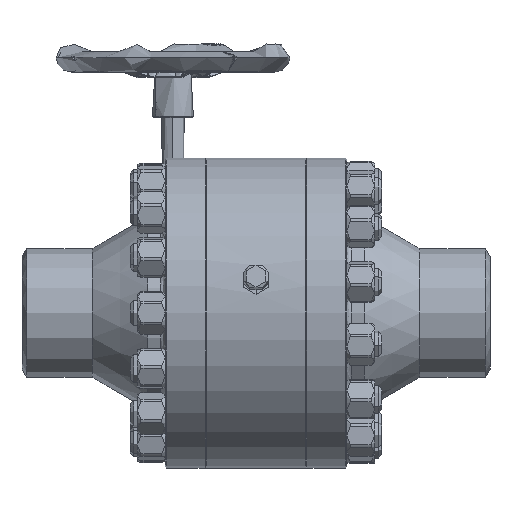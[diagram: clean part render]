
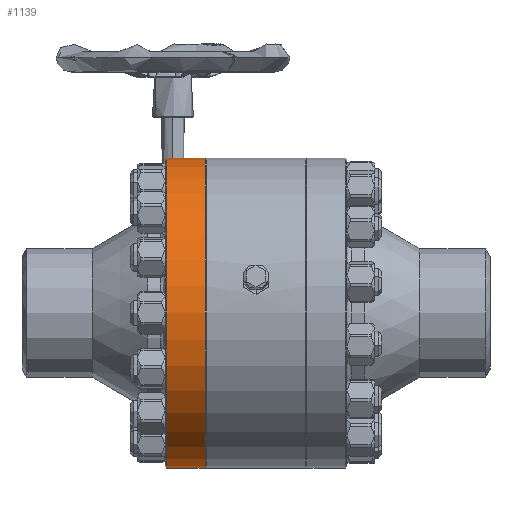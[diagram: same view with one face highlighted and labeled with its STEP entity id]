
A CAD part, front view. The second image highlights one B-rep face of the part: STEP entity #1139.
In plain terms, the highlighted cylindrical face has radius 132.5 mm (diameter 265 mm), a partial arc.
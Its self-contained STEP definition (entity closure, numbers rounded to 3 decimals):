
#1139=ADVANCED_FACE('',(#4563),#4565,.T.);
#4563=FACE_OUTER_BOUND('',#4564,.T.);
#4564=EDGE_LOOP('',(#60218,#60219,#60220,#60221));
#4565=CYLINDRICAL_SURFACE('',#4566,132.5);
#4566=AXIS2_PLACEMENT_3D('',#4567,#4568,#4569);
#4567=CARTESIAN_POINT('',(-200.,0.,0.));
#4568=DIRECTION('',(-1.,-0.,-0.));
#4569=DIRECTION('',(0.,0.,1.));
#60218=ORIENTED_EDGE('',*,*,#72046,.F.);
#60219=ORIENTED_EDGE('',*,*,#72041,.T.);
#60220=ORIENTED_EDGE('',*,*,#72001,.T.);
#60221=ORIENTED_EDGE('',*,*,#72078,.T.);
#72001=EDGE_CURVE('',#78424,#78431,#78432,.T.);
#72041=EDGE_CURVE('',#78506,#78424,#78508,.T.);
#72046=EDGE_CURVE('',#78506,#78510,#78515,.T.);
#72078=EDGE_CURVE('',#78431,#78510,#78576,.T.);
#78424=VERTEX_POINT('',#89254);
#78431=VERTEX_POINT('',#89277);
#78432=LINE('',#89278,#89279);
#78506=VERTEX_POINT('',#89479);
#78508=CIRCLE('',#89483,132.5);
#78510=VERTEX_POINT('',#89488);
#78515=LINE('',#89504,#89505);
#78576=CIRCLE('',#89659,132.5);
#89254=CARTESIAN_POINT('',(-43.5,0.,132.5));
#89277=CARTESIAN_POINT('',(-76.5,0.,132.5));
#89278=CARTESIAN_POINT('',(-43.5,0.,132.5));
#89279=VECTOR('',#89280,1.);
#89280=DIRECTION('',(-1.,0.,0.));
#89479=CARTESIAN_POINT('',(-43.5,0.,-132.5));
#89483=AXIS2_PLACEMENT_3D('',#89484,#89485,#89486);
#89484=CARTESIAN_POINT('',(-43.5,0.,0.));
#89485=DIRECTION('',(-1.,0.,0.));
#89486=DIRECTION('',(0.,0.,-1.));
#89488=CARTESIAN_POINT('',(-76.5,0.,-132.5));
#89504=CARTESIAN_POINT('',(-43.5,0.,-132.5));
#89505=VECTOR('',#89506,1.);
#89506=DIRECTION('',(-1.,0.,0.));
#89659=AXIS2_PLACEMENT_3D('',#89660,#89661,#89662);
#89660=CARTESIAN_POINT('',(-76.5,0.,0.));
#89661=DIRECTION('',(1.,0.,0.));
#89662=DIRECTION('',(-0.,0.,1.));
